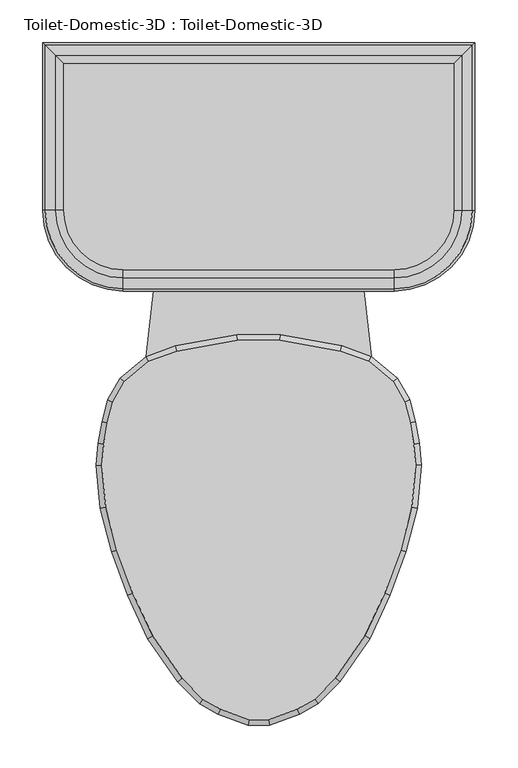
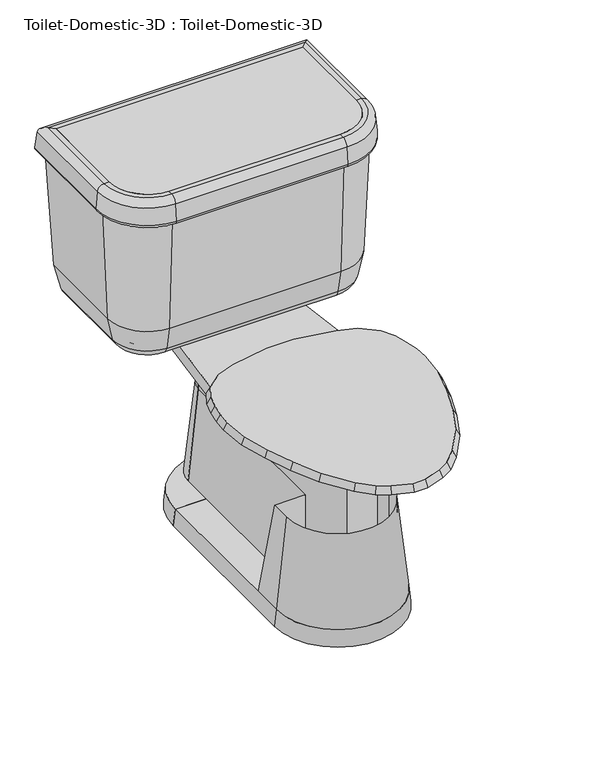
"""IFC4 building model written with IfcOpenShell, lengths in millimetres: flow terminal geometry, Toilet-Domestic-3D : Toilet-Domestic-3D."""

from ifc_helpers import new_model, si_unit, point, frame, frame_2d, origin, place, context, project, spatial, polyline, circle_curve, ellipse_curve, trimmed, segment, composite_curve, outline, extrude, faceted_brep, source, transform, mapped, element, save
from ifc_brep_helpers import plane_surface, cylinder_surface, revolved_surface, advanced_brep


def toilet_domestic_3d_toilet_domestic_3d_3687f172(model_context):
    return source(origin(), model_context, "Body", "SolidModel", [
        advanced_brep(
        [(-117.7636364, 285.75, 0.0), (-38.1, 285.75, 0.0), (-38.1, 285.75, 31.75), (-114.3, 285.75, 31.75), (117.7636364, 285.75, 0.0), (114.3, 285.75, 31.75), (38.1, 285.75, 31.75), (38.1, 285.75, 0.0)],
        [
            (0, 1),
            (1, 2),
            (2, 3),
            (3, 0),
            (4, 5),
            (5, 6),
            (6, 7),
            (7, 4),
            (7, 1, circle_curve(frame((0.0, 285.75, 0.0), z_axis=(0.0, 0.0, 1.0), x_axis=(-1.0, 0.0, 0.0)), 38.1)),
            (0, 4, circle_curve(frame((0.0, 285.75, 0.0), z_axis=(0.0, 0.0, -1.0), x_axis=(-1.0, 0.0, 0.0)), 117.7636364)),
            (6, 2, circle_curve(frame((0.0, 285.75, 31.75), z_axis=(0.0, 0.0, 1.0), x_axis=(-1.0, 0.0, 0.0)), 38.1)),
            (5, 3, circle_curve(frame((0.0, 285.75, 31.75), z_axis=(0.0, 0.0, 1.0), x_axis=(-1.0, 0.0, 0.0)), 114.3)),
        ],
        [
            plane_surface(frame((0.0, 285.75, -304.8), z_axis=(0.0, -1.0, 0.0), x_axis=(-1.0, 0.0, 0.0))),
            plane_surface(frame((0.0, 285.75, -304.8), z_axis=(0.0, -1.0, 0.0), x_axis=(1.0, 0.0, 0.0))),
            plane_surface(frame((0.0, 285.75, 0.0), z_axis=(0.0, 0.0, -1.0), x_axis=(-1.0, 0.0, 0.0))),
            revolved_surface(polyline([(-38.1, 285.75, 0.0), (-38.1, 285.75, 31.75)]), (0.0, 285.75, -304.8), (0.0, 0.0, -1.0)),
            plane_surface(frame((0.0, 285.75, 31.75), z_axis=(0.0, 0.0, 1.0), x_axis=(-1.0, 0.0, 0.0))),
            revolved_surface(polyline([(-114.3, 285.75, 31.75), (-117.7636364, 285.75, 0.0)]), (0.0, 285.75, -304.8), (0.0, 0.0, -1.0)),
        ],
        [
            (0, [[1, 2, 3, 4]]),
            (1, [[5, 6, 7, 8]]),
            (2, [[9, -1, 10, -8]]),
            (3, [[11, -2, -9, -7]]),
            (4, [[12, -3, -11, -6]]),
            (5, [[-10, -4, -12, -5]]),
        ],
    ),
        advanced_brep(
        [(-38.1, 342.9, 206.375), (-57.15, 342.9, 31.75), (-38.1, 342.9, 31.75), (38.1, 342.9, 206.375), (38.1, 342.9, 31.75), (57.15, 342.9, 31.75)],
        [
            (0, 1),
            (1, 2),
            (2, 0),
            (3, 4),
            (4, 5),
            (5, 3),
            (5, 1, circle_curve(frame((0.0, 342.9, 31.75), z_axis=(0.0, 0.0, 1.0), x_axis=(-1.0, 0.0, 0.0)), 57.15)),
            (0, 3, circle_curve(frame((0.0, 342.9, 206.375), z_axis=(0.0, 0.0, -1.0), x_axis=(-1.0, 0.0, 0.0)), 38.1)),
            (4, 2, circle_curve(frame((0.0, 342.9, 31.75), z_axis=(0.0, 0.0, 1.0), x_axis=(-1.0, 0.0, 0.0)), 38.1)),
        ],
        [
            plane_surface(frame((0.0, 342.9, 31.75), z_axis=(0.0, -1.0, 0.0), x_axis=(-1.0, 0.0, 0.0))),
            plane_surface(frame((0.0, 342.9, 31.75), z_axis=(0.0, -1.0, 0.0), x_axis=(1.0, 0.0, 0.0))),
            revolved_surface(polyline([(-38.1, 342.9, 206.375), (-57.15, 342.9, 31.75)]), (0.0, 342.9, 31.75), (0.0, 0.0, -1.0)),
            plane_surface(frame((0.0, 342.9, 31.75), z_axis=(0.0, 0.0, -1.0), x_axis=(-1.0, 0.0, 0.0))),
            revolved_surface(polyline([(-38.1, 342.9, 31.75), (-38.1, 342.9, 206.375)]), (0.0, 342.9, 31.75), (0.0, 0.0, -1.0)),
        ],
        [
            (0, [[1, 2, 3]]),
            (1, [[4, 5, 6]]),
            (2, [[7, -1, 8, -6]]),
            (3, [[9, -2, -7, -5]]),
            (4, [[-8, -3, -9, -4]]),
        ],
    ),
        faceted_brep([(-157.6293435, 97.472128, 400.05), (-171.060664, 73.773864, 400.05), (-177.5851102, 49.4242991, 400.05), (-181.9845715, 24.4737144, 400.05), (-184.125744, 0.0, 400.05), (-179.7950716, -49.4998127, 400.05), (-166.347, -99.688699, 400.05), (-148.0469602, -149.9676451, 400.05), (-124.7045808, -200.0255393, 400.05), (-90.0971582, -249.9125941, 400.05), (-65.691017, -274.3187354, 400.05), (-44.8990862, -286.3229622, 400.05), (-11.5803237, -298.45, 400.05), (11.5803237, -298.45, 400.05), (44.8990862, -286.3229622, 400.05), (65.691017, -274.3187354, 400.05), (90.0971582, -249.9125941, 400.05), (124.7045808, -200.0255393, 400.05), (148.0469602, -149.9676451, 400.05), (166.347, -99.688699, 400.05), (179.7950716, -49.4998127, 400.05), (184.125744, 0.0, 400.05), (181.9845715, 24.4737144, 400.05), (177.5851102, 49.4242991, 400.05), (171.060664, 73.773864, 400.05), (157.6293435, 97.472128, 400.05), (129.0942628, 121.4159037, 400.05), (95.7755003, 133.5429415, 400.05), (24.844447, 146.05, 400.05), (-24.844447, 146.05, 400.05), (-95.7755003, 133.5429415, 400.05), (-129.0942628, 121.4159037, 400.05), (-162.5887836, 101.6, 387.2181453), (-132.3182423, 127.0, 387.2181453), (-97.4252791, 139.7, 387.2181453), (-25.4, 152.4, 387.2181453), (25.4, 152.4, 387.2181453), (97.4252791, 139.7, 387.2181453), (132.3182423, 127.0, 387.2181453), (162.5887836, 101.6, 387.2181453), (176.9845865, 76.2, 387.2181453), (183.790496, 50.8, 387.2181453), (188.2862441, 25.3033453, 387.2181453), (190.5, 0.0, 387.2181453), (186.0724883, -50.6066907, 387.2181453), (172.4088722, -101.6, 387.2181453), (153.9191843, -152.4, 387.2181453), (130.2307553, -203.2, 387.2181453), (94.9900085, -254.0, 387.2181453), (69.5900085, -279.4, 387.2181453), (47.5929632, -292.1, 387.2181453), (12.7, -304.8, 387.2181453), (-12.7, -304.8, 387.2181453), (-47.5929632, -292.1, 387.2181453), (-69.5900085, -279.4, 387.2181453), (-94.9900085, -254.0, 387.2181453), (-130.2307553, -203.2, 387.2181453), (-153.9191843, -152.4, 387.2181453), (-172.4088722, -101.6, 387.2181453), (-186.0724883, -50.6066907, 387.2181453), (-190.5, 0.0, 387.2181453), (-188.2862441, 25.3033453, 387.2181453), (-183.790496, 50.8, 387.2181453), (-176.9845865, 76.2, 387.2181453)], [[[0, 1, 2, 3, 4, 5, 6, 7, 8, 9, 10, 11, 12, 13, 14, 15, 16, 17, 18, 19, 20, 21, 22, 23, 24, 25, 26, 27, 28, 29, 30, 31]], [[32, 33, 34, 35, 36, 37, 38, 39, 40, 41, 42, 43, 44, 45, 46, 47, 48, 49, 50, 51, 52, 53, 54, 55, 56, 57, 58, 59, 60, 61, 62, 63]], [[32, 63, 1, 0]], [[63, 62, 2, 1]], [[62, 61, 3, 2]], [[61, 60, 4, 3]], [[60, 59, 5, 4]], [[59, 58, 6, 5]], [[58, 57, 7, 6]], [[57, 56, 8, 7]], [[56, 55, 9, 8]], [[55, 54, 10, 9]], [[54, 53, 11, 10]], [[53, 52, 12, 11]], [[52, 51, 13, 12]], [[51, 50, 14, 13]], [[50, 49, 15, 14]], [[49, 48, 16, 15]], [[48, 47, 17, 16]], [[47, 46, 18, 17]], [[46, 45, 19, 18]], [[45, 44, 20, 19]], [[44, 43, 21, 20]], [[43, 42, 22, 21]], [[42, 41, 23, 22]], [[41, 40, 24, 23]], [[40, 39, 25, 24]], [[39, 38, 26, 25]], [[38, 37, 27, 26]], [[37, 36, 28, 27]], [[36, 35, 29, 28]], [[35, 34, 30, 29]], [[34, 33, 31, 30]], [[33, 32, 0, 31]]]),
        extrude(outline(composite_curve([segment(polyline([(228.5868869, 469.8868869), (228.5868869, 298.45)]), True, "CONTINUOUS"), segment(trimmed(circle_curve(frame_2d((158.75, 298.45)), 69.8368869), [point((228.5868869, 298.45))], [point((158.75, 228.6131131))], False, "CARTESIAN"), True, "CONTINUOUS"), segment(polyline([(158.75, 228.6131131), (-158.75, 228.6131131)]), True, "CONTINUOUS"), segment(trimmed(circle_curve(frame_2d((-158.75, 298.45)), 69.8368869), [point((-158.75, 228.6131131))], [point((-228.5868869, 298.45))], False, "CARTESIAN"), True, "CONTINUOUS"), segment(polyline([(-228.5868869, 298.45), (-228.5868869, 469.8868869), (228.5868869, 469.8868869)]), True, "CONTINUOUS")], self_intersect=False)), frame((0.0, 0.0, 654.05), z_axis=(0.0, 0.0, 1.0), x_axis=(1.0, 0.0, 0.0)), (0.0, 0.0, 1.0), 50.8),
        extrude(outline(composite_curve([segment(trimmed(circle_curve(frame_2d((0.0, 342.9)), 38.1), [point((-38.1, 342.9))], [point((38.1, 342.9))], False, "CARTESIAN"), True, "CONTINUOUS"), segment(polyline([(38.1, 342.9), (-38.1, 342.9)]), True, "CONTINUOUS")], self_intersect=False)), frame((0.0, 0.0, 206.375), z_axis=(0.0, 0.0, 1.0), x_axis=(1.0, 0.0, 0.0)), (0.0, 0.0, 1.0), 130.175),
        advanced_brep(
        [(177.8, 419.1, 387.2181453), (177.8, 419.1, 374.65), (177.8, 298.45, 374.65), (177.8, 298.45, 387.2181453), (192.8020829, 434.1020829, 387.2181453), (192.8020829, 298.45, 387.2181453), (211.4650931, 452.7650931, 402.4478636), (211.4650931, 298.45, 402.4478636), (218.7732506, 460.0732506, 438.15), (218.7732506, 298.45, 438.15), (228.5868869, 469.8868869, 654.05), (228.5868869, 298.45, 654.05), (228.5868869, 469.8868869, 704.85), (228.5868869, 298.45, 704.85), (237.91817, 479.21817, 704.85), (237.91817, 298.45, 704.85), (250.5698426, 491.8698426, 693.2568779), (250.5698426, 298.45, 693.2568779), (253.3960274, 494.6960274, 660.953439), (253.3960274, 298.45, 660.953439), (247.070191, 488.370191, 654.05), (247.070191, 298.45, 654.05), (241.3, 482.6, 654.05), (241.3, 298.45, 654.05), (231.4863636, 472.7863636, 438.15), (231.4863636, 298.45, 438.15), (222.3416824, 463.6416824, 393.4759963), (222.3416824, 298.45, 393.4759963), (197.8071664, 439.1071664, 374.65), (197.8071664, 298.45, 374.65), (158.75, 279.4, 387.2181453), (158.75, 279.4, 374.65), (158.75, 264.3979171, 387.2181453), (158.75, 245.7349069, 402.4478636), (158.75, 238.4267494, 438.15), (158.75, 228.6131131, 654.05), (158.75, 228.6131131, 704.85), (158.75, 219.28183, 704.85), (158.75, 206.6301574, 693.2568779), (158.75, 203.8039726, 660.953439), (158.75, 210.129809, 654.05), (158.75, 215.9, 654.05), (158.75, 225.7136364, 438.15), (158.75, 234.8583176, 393.4759963), (158.75, 259.3928336, 374.65), (-158.75, 279.4, 374.65), (-158.75, 279.4, 387.2181453), (-158.75, 264.3979171, 387.2181453), (-158.75, 245.7349069, 402.4478636), (-158.75, 238.4267494, 438.15), (-158.75, 228.6131131, 654.05), (-158.75, 228.6131131, 704.85), (-158.75, 219.28183, 704.85), (-158.75, 206.6301574, 693.2568779), (-158.75, 203.8039726, 660.953439), (-158.75, 210.129809, 654.05), (-158.75, 215.9, 654.05), (-158.75, 225.7136364, 438.15), (-158.75, 234.8583176, 393.4759963), (-158.75, 259.3928336, 374.65), (-177.8, 298.45, 387.2181453), (-177.8, 298.45, 374.65), (-192.8020829, 298.45, 387.2181453), (-211.4650931, 298.45, 402.4478636), (-218.7732506, 298.45, 438.15), (-228.5868869, 298.45, 654.05), (-228.5868869, 298.45, 704.85), (-237.91817, 298.45, 704.85), (-250.5698426, 298.45, 693.2568779), (-253.3960274, 298.45, 660.953439), (-247.070191, 298.45, 654.05), (-241.3, 298.45, 654.05), (-231.4863636, 298.45, 438.15), (-222.3416824, 298.45, 393.4759963), (-197.8071664, 298.45, 374.65), (-177.8, 419.1, 374.65), (-177.8, 419.1, 387.2181453), (-192.8020829, 434.1020829, 387.2181453), (-211.4650931, 452.7650931, 402.4478636), (-218.7732506, 460.0732506, 438.15), (-228.5868869, 469.8868869, 654.05), (-228.5868869, 469.8868869, 704.85), (-237.91817, 479.21817, 704.85), (-250.5698426, 491.8698426, 693.2568779), (-253.3960274, 494.6960274, 660.953439), (-247.070191, 488.370191, 654.05), (-241.3, 482.6, 654.05), (-231.4863636, 472.7863636, 438.15), (-222.3416824, 463.6416824, 393.4759963), (-197.8071664, 439.1071664, 374.65)],
        [
            (0, 1),
            (1, 2),
            (2, 3),
            (3, 0),
            (4, 0),
            (3, 5),
            (5, 4),
            (6, 4, ellipse_curve(frame((192.8020829, 434.1020829, 406.2681453), z_axis=(-0.7071067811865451, 0.7071067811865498, 0.0), x_axis=(-0.7071067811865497, -0.7071067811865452, 0.0)), 26.9407684, 19.05)),
            (5, 7, circle_curve(frame((192.8020829, 298.45, 406.2681453), z_axis=(0.0, -1.0, 0.0), x_axis=(1.0, 0.0, 0.0)), 19.05)),
            (7, 6),
            (8, 6),
            (7, 9),
            (9, 8),
            (10, 8),
            (9, 11),
            (11, 10),
            (12, 10),
            (11, 13),
            (13, 12),
            (14, 12),
            (13, 15),
            (15, 14),
            (16, 14, ellipse_curve(frame((237.91817, 479.21817, 692.15), z_axis=(0.7071067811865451, -0.7071067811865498, 0.0), x_axis=(0.7071067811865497, 0.7071067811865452, 0.0)), 17.9605122, 12.7)),
            (15, 17, circle_curve(frame((237.91817, 298.45, 692.15), z_axis=(0.0, 1.0, 0.0), x_axis=(1.0, 0.0, 0.0)), 12.7)),
            (17, 16),
            (18, 16),
            (17, 19),
            (19, 18),
            (20, 18, ellipse_curve(frame((247.070191, 488.370191, 660.4), z_axis=(0.7071067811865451, -0.7071067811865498, 0.0), x_axis=(0.7071067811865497, 0.7071067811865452, 0.0)), 8.9802561, 6.35)),
            (19, 21, circle_curve(frame((247.070191, 298.45, 660.4), z_axis=(0.0, 1.0, 0.0), x_axis=(1.0, 0.0, 0.0)), 6.35)),
            (21, 20),
            (22, 20),
            (21, 23),
            (23, 22),
            (24, 22),
            (23, 25),
            (25, 24),
            (26, 24),
            (25, 27),
            (27, 26),
            (28, 26, ellipse_curve(frame((197.8071664, 439.1071664, 400.05), z_axis=(0.7071067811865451, -0.7071067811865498, 0.0), x_axis=(0.7071067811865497, 0.7071067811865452, 0.0)), 35.9210245, 25.4)),
            (27, 29, circle_curve(frame((197.8071664, 298.45, 400.05), z_axis=(0.0, 1.0, 0.0), x_axis=(1.0, 0.0, 0.0)), 25.4)),
            (29, 28),
            (1, 28),
            (29, 2),
            (30, 3, circle_curve(frame((158.75, 298.45, 387.2181453), z_axis=(0.0, 0.0, 1.0), x_axis=(1.0, 0.0, 0.0)), 19.05)),
            (2, 31, circle_curve(frame((158.75, 298.45, 374.65), z_axis=(0.0, 0.0, -1.0), x_axis=(1.0, 0.0, 0.0)), 19.05)),
            (31, 30),
            (32, 5, circle_curve(frame((158.75, 298.45, 387.2181453), z_axis=(0.0, 0.0, 1.0), x_axis=(1.0, 0.0, 0.0)), 34.0520829)),
            (30, 32),
            (33, 7, circle_curve(frame((158.75, 298.45, 402.4478636), z_axis=(0.0, 0.0, 1.0), x_axis=(1.0, 0.0, 0.0)), 52.7150931)),
            (32, 33, circle_curve(frame((158.75, 264.3979171, 406.2681453), z_axis=(-1.0, 0.0, 0.0), x_axis=(0.0, -1.0, 0.0)), 19.05)),
            (34, 9, circle_curve(frame((158.75, 298.45, 438.15), z_axis=(0.0, 0.0, 1.0), x_axis=(1.0, 0.0, 0.0)), 60.0232506)),
            (33, 34),
            (35, 11, circle_curve(frame((158.75, 298.45, 654.05), z_axis=(0.0, 0.0, 1.0), x_axis=(1.0, 0.0, 0.0)), 69.8368869)),
            (34, 35),
            (36, 13, circle_curve(frame((158.75, 298.45, 704.85), z_axis=(0.0, 0.0, 1.0), x_axis=(1.0, 0.0, 0.0)), 69.8368869)),
            (35, 36),
            (37, 15, circle_curve(frame((158.75, 298.45, 704.85), z_axis=(0.0, 0.0, 1.0), x_axis=(1.0, 0.0, 0.0)), 79.16817)),
            (36, 37),
            (38, 17, circle_curve(frame((158.75, 298.45, 693.2568779), z_axis=(0.0, 0.0, 1.0), x_axis=(1.0, 0.0, 0.0)), 91.8198426)),
            (37, 38, circle_curve(frame((158.75, 219.28183, 692.15), z_axis=(1.0, 0.0, 0.0), x_axis=(0.0, -1.0, 0.0)), 12.7)),
            (39, 19, circle_curve(frame((158.75, 298.45, 660.953439), z_axis=(0.0, 0.0, 1.0), x_axis=(1.0, 0.0, 0.0)), 94.6460274)),
            (38, 39),
            (40, 21, circle_curve(frame((158.75, 298.45, 654.05), z_axis=(0.0, 0.0, 1.0), x_axis=(1.0, 0.0, 0.0)), 88.320191)),
            (39, 40, circle_curve(frame((158.75, 210.129809, 660.4), z_axis=(1.0, 0.0, 0.0), x_axis=(0.0, -1.0, 0.0)), 6.35)),
            (41, 23, circle_curve(frame((158.75, 298.45, 654.05), z_axis=(0.0, 0.0, 1.0), x_axis=(1.0, 0.0, 0.0)), 82.55)),
            (40, 41),
            (42, 25, circle_curve(frame((158.75, 298.45, 438.15), z_axis=(0.0, 0.0, 1.0), x_axis=(1.0, 0.0, 0.0)), 72.7363636)),
            (41, 42),
            (43, 27, circle_curve(frame((158.75, 298.45, 393.4759963), z_axis=(0.0, 0.0, 1.0), x_axis=(1.0, 0.0, 0.0)), 63.5916824)),
            (42, 43),
            (44, 29, circle_curve(frame((158.75, 298.45, 374.65), z_axis=(0.0, 0.0, 1.0), x_axis=(1.0, 0.0, 0.0)), 39.0571664)),
            (43, 44, circle_curve(frame((158.75, 259.3928336, 400.05), z_axis=(1.0, 0.0, 0.0), x_axis=(0.0, -1.0, 0.0)), 25.4)),
            (44, 31),
            (31, 45),
            (45, 46),
            (46, 30),
            (46, 47),
            (47, 32),
            (47, 48, circle_curve(frame((-158.75, 264.3979171, 406.2681453), z_axis=(-1.0, 0.0, 0.0), x_axis=(0.0, -1.0, 0.0)), 19.05)),
            (48, 33),
            (48, 49),
            (49, 34),
            (49, 50),
            (50, 35),
            (50, 51),
            (51, 36),
            (51, 52),
            (52, 37),
            (52, 53, circle_curve(frame((-158.75, 219.28183, 692.15), z_axis=(1.0, 0.0, 0.0), x_axis=(0.0, -1.0, 0.0)), 12.7)),
            (53, 38),
            (53, 54),
            (54, 39),
            (54, 55, circle_curve(frame((-158.75, 210.129809, 660.4), z_axis=(1.0, 0.0, 0.0), x_axis=(0.0, -1.0, 0.0)), 6.35)),
            (55, 40),
            (55, 56),
            (56, 41),
            (56, 57),
            (57, 42),
            (57, 58),
            (58, 43),
            (58, 59, circle_curve(frame((-158.75, 259.3928336, 400.05), z_axis=(1.0, 0.0, 0.0), x_axis=(0.0, -1.0, 0.0)), 25.4)),
            (59, 44),
            (59, 45),
            (60, 46, circle_curve(frame((-158.75, 298.45, 387.2181453), z_axis=(0.0, 0.0, 1.0), x_axis=(0.0, -1.0, 0.0)), 19.05)),
            (45, 61, circle_curve(frame((-158.75, 298.45, 374.65), z_axis=(0.0, 0.0, -1.0), x_axis=(0.0, -1.0, 0.0)), 19.05)),
            (61, 60),
            (62, 47, circle_curve(frame((-158.75, 298.45, 387.2181453), z_axis=(0.0, 0.0, 1.0), x_axis=(0.0, -1.0, 0.0)), 34.0520829)),
            (60, 62),
            (63, 48, circle_curve(frame((-158.75, 298.45, 402.4478636), z_axis=(0.0, 0.0, 1.0), x_axis=(0.0, -1.0, 0.0)), 52.7150931)),
            (62, 63, circle_curve(frame((-192.8020829, 298.45, 406.2681453), z_axis=(0.0, 1.0, 0.0), x_axis=(-1.0, 0.0, 0.0)), 19.05)),
            (64, 49, circle_curve(frame((-158.75, 298.45, 438.15), z_axis=(0.0, 0.0, 1.0), x_axis=(0.0, -1.0, 0.0)), 60.0232506)),
            (63, 64),
            (65, 50, circle_curve(frame((-158.75, 298.45, 654.05), z_axis=(0.0, 0.0, 1.0), x_axis=(0.0, -1.0, 0.0)), 69.8368869)),
            (64, 65),
            (66, 51, circle_curve(frame((-158.75, 298.45, 704.85), z_axis=(0.0, 0.0, 1.0), x_axis=(0.0, -1.0, 0.0)), 69.8368869)),
            (65, 66),
            (67, 52, circle_curve(frame((-158.75, 298.45, 704.85), z_axis=(0.0, 0.0, 1.0), x_axis=(0.0, -1.0, 0.0)), 79.16817)),
            (66, 67),
            (68, 53, circle_curve(frame((-158.75, 298.45, 693.2568779), z_axis=(0.0, 0.0, 1.0), x_axis=(0.0, -1.0, 0.0)), 91.8198426)),
            (67, 68, circle_curve(frame((-237.91817, 298.45, 692.15), z_axis=(0.0, -1.0, 0.0), x_axis=(-1.0, 0.0, 0.0)), 12.7)),
            (69, 54, circle_curve(frame((-158.75, 298.45, 660.953439), z_axis=(0.0, 0.0, 1.0), x_axis=(0.0, -1.0, 0.0)), 94.6460274)),
            (68, 69),
            (70, 55, circle_curve(frame((-158.75, 298.45, 654.05), z_axis=(0.0, 0.0, 1.0), x_axis=(0.0, -1.0, 0.0)), 88.320191)),
            (69, 70, circle_curve(frame((-247.070191, 298.45, 660.4), z_axis=(0.0, -1.0, 0.0), x_axis=(-1.0, 0.0, 0.0)), 6.35)),
            (71, 56, circle_curve(frame((-158.75, 298.45, 654.05), z_axis=(0.0, 0.0, 1.0), x_axis=(0.0, -1.0, 0.0)), 82.55)),
            (70, 71),
            (72, 57, circle_curve(frame((-158.75, 298.45, 438.15), z_axis=(0.0, 0.0, 1.0), x_axis=(0.0, -1.0, 0.0)), 72.7363636)),
            (71, 72),
            (73, 58, circle_curve(frame((-158.75, 298.45, 393.4759963), z_axis=(0.0, 0.0, 1.0), x_axis=(0.0, -1.0, 0.0)), 63.5916824)),
            (72, 73),
            (74, 59, circle_curve(frame((-158.75, 298.45, 374.65), z_axis=(0.0, 0.0, 1.0), x_axis=(0.0, -1.0, 0.0)), 39.0571664)),
            (73, 74, circle_curve(frame((-197.8071664, 298.45, 400.05), z_axis=(0.0, -1.0, 0.0), x_axis=(-1.0, 0.0, 0.0)), 25.4)),
            (74, 61),
            (61, 75),
            (75, 76),
            (76, 60),
            (76, 77),
            (77, 62),
            (77, 78, ellipse_curve(frame((-192.8020829, 434.1020829, 406.2681453), z_axis=(0.7071067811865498, 0.7071067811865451, 0.0), x_axis=(-0.7071067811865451, 0.70710678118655, 0.0)), 26.9407684, 19.05)),
            (78, 63),
            (78, 79),
            (79, 64),
            (79, 80),
            (80, 65),
            (80, 81),
            (81, 66),
            (81, 82),
            (82, 67),
            (82, 83, ellipse_curve(frame((-237.91817, 479.21817, 692.15), z_axis=(-0.7071067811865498, -0.7071067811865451, 0.0), x_axis=(0.7071067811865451, -0.70710678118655, 0.0)), 17.9605122, 12.7)),
            (83, 68),
            (83, 84),
            (84, 69),
            (84, 85, ellipse_curve(frame((-247.070191, 488.370191, 660.4), z_axis=(-0.7071067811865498, -0.7071067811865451, 0.0), x_axis=(0.7071067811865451, -0.70710678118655, 0.0)), 8.9802561, 6.35)),
            (85, 70),
            (85, 86),
            (86, 71),
            (86, 87),
            (87, 72),
            (87, 88),
            (88, 73),
            (88, 89, ellipse_curve(frame((-197.8071664, 439.1071664, 400.05), z_axis=(-0.7071067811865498, -0.7071067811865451, 0.0), x_axis=(0.7071067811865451, -0.70710678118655, 0.0)), 35.9210245, 25.4)),
            (89, 74),
            (89, 75),
            (75, 1),
            (0, 76),
            (4, 77),
            (6, 78),
            (8, 79),
            (10, 80),
            (12, 81),
            (14, 82),
            (16, 83),
            (18, 84),
            (20, 85),
            (22, 86),
            (24, 87),
            (26, 88),
            (28, 89),
        ],
        [
            plane_surface(frame((177.8, 419.1, 374.65), z_axis=(-1.0, 0.0, 0.0), x_axis=(0.0, -1.0, 0.0))),
            plane_surface(frame((177.8, 419.1, 387.2181453), z_axis=(0.0, 0.0, 1.0), x_axis=(0.0, -1.0, 0.0))),
            revolved_surface(polyline([(211.8520829, 298.45, 406.2681453), (211.8520829, 453.1520829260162, 406.2681453)]), (192.8020829, 419.1, 406.2681453), (0.0, -1.0, 0.0)),
            plane_surface(frame((211.4650931, 452.7650931, 402.4478636), z_axis=(-0.9796855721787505, 0.0, 0.2005397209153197), x_axis=(0.0, -1.0, 0.0))),
            plane_surface(frame((218.7732506, 460.0732506, 438.15), z_axis=(-0.9989685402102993, 0.0, 0.04540766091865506), x_axis=(0.0, -1.0, 0.0))),
            plane_surface(frame((228.5868869, 469.8868869, 654.05), z_axis=(-1.0, 0.0, 0.0), x_axis=(0.0, -1.0, 0.0))),
            plane_surface(frame((228.5868869, 469.8868869, 704.85), z_axis=(0.0, 0.0, 1.0), x_axis=(0.0, -1.0, 0.0))),
            cylinder_surface(frame((237.91817, 419.1, 692.15), z_axis=(0.0, 1.0, 0.0), x_axis=(1.0, 0.0, 0.0)), 12.7),
            plane_surface(frame((250.5698426, 491.8698426, 693.2568779), z_axis=(0.9961946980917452, 0.0, 0.08715574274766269), x_axis=(0.0, -1.0, 0.0))),
            cylinder_surface(frame((247.070191, 419.1, 660.4), z_axis=(0.0, 1.0, 0.0), x_axis=(1.0, 0.0, 0.0)), 6.35),
            plane_surface(frame((247.070191, 488.370191, 654.05), z_axis=(0.0, 0.0, -1.0), x_axis=(0.0, -1.0, 0.0))),
            plane_surface(frame((241.3, 482.6, 654.05), z_axis=(0.9989685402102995, 0.0, -0.04540766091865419), x_axis=(0.0, -1.0, 0.0))),
            plane_surface(frame((231.4863636, 472.7863636, 438.15), z_axis=(0.9796855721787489, 0.0, -0.20053972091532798), x_axis=(0.0, -1.0, 0.0))),
            cylinder_surface(frame((197.8071664, 419.1, 400.05), z_axis=(0.0, 1.0, 0.0), x_axis=(1.0, 0.0, 0.0)), 25.4),
            plane_surface(frame((197.8071664, 439.1071664, 374.65), z_axis=(0.0, 0.0, -1.0), x_axis=(0.0, -1.0, 0.0))),
            revolved_surface(polyline([(177.8, 298.45, 374.65), (177.8, 298.45, 387.2181453)]), (158.75, 298.45, 0.0), (0.0, 0.0, -1.0)),
            plane_surface(frame((158.75, 298.45, 387.2181453), z_axis=(0.0, 0.0, 1.0), x_axis=(1.0, 0.0, 0.0))),
            revolved_surface(trimmed(ellipse_curve(frame((192.8020829, 298.45, 406.2681453), z_axis=(0.0, -1.0, 0.0), x_axis=(1.0, 0.0, 0.0)), 19.05, 19.05), [point((192.8020829, 298.45, 387.2181453))], [point((211.4650931, 298.45, 402.4478636))], True, "CARTESIAN"), (158.75, 298.45, 0.0), (0.0, 0.0, -1.0)),
            revolved_surface(polyline([(211.4650931, 298.45, 402.4478636), (218.7732506, 298.45, 438.15)]), (158.75, 298.45, 0.0), (0.0, 0.0, -1.0)),
            revolved_surface(polyline([(218.7732506, 298.45, 438.15), (228.5868869, 298.45, 654.05)]), (158.75, 298.45, 0.0), (0.0, 0.0, -1.0)),
            revolved_surface(polyline([(228.5868869, 298.45, 654.05), (228.5868869, 298.45, 704.85)]), (158.75, 298.45, 0.0), (0.0, 0.0, -1.0)),
            plane_surface(frame((158.75, 298.45, 704.85), z_axis=(0.0, 0.0, 1.0), x_axis=(1.0, 0.0, 0.0))),
            revolved_surface(trimmed(ellipse_curve(frame((237.91817, 298.45, 692.15), z_axis=(0.0, 1.0, 0.0), x_axis=(1.0, 0.0, 0.0)), 12.7, 12.7), [point((237.91817, 298.45, 704.85))], [point((250.5698426, 298.45, 693.2568779))], True, "CARTESIAN"), (158.75, 298.45, 0.0), (0.0, 0.0, -1.0)),
            revolved_surface(polyline([(250.5698426, 298.45, 693.2568779), (253.3960274, 298.45, 660.953439)]), (158.75, 298.45, 0.0), (0.0, 0.0, -1.0)),
            revolved_surface(trimmed(ellipse_curve(frame((247.070191, 298.45, 660.4), z_axis=(0.0, 1.0, 0.0), x_axis=(1.0, 0.0, 0.0)), 6.35, 6.35), [point((253.3960274, 298.45, 660.953439))], [point((247.070191, 298.45, 654.05))], True, "CARTESIAN"), (158.75, 298.45, 0.0), (0.0, 0.0, -1.0)),
            plane_surface(frame((158.75, 298.45, 654.05), z_axis=(0.0, 0.0, -1.0), x_axis=(1.0, 0.0, 0.0))),
            revolved_surface(polyline([(241.3, 298.45, 654.05), (231.4863636, 298.45, 438.15)]), (158.75, 298.45, 0.0), (0.0, 0.0, -1.0)),
            revolved_surface(polyline([(231.4863636, 298.45, 438.15), (222.3416824, 298.45, 393.4759963)]), (158.75, 298.45, 0.0), (0.0, 0.0, -1.0)),
            revolved_surface(trimmed(ellipse_curve(frame((197.8071664, 298.45, 400.05), z_axis=(0.0, 1.0, 0.0), x_axis=(1.0, 0.0, 0.0)), 25.4, 25.4), [point((222.3416824, 298.45, 393.4759963))], [point((197.8071664, 298.45, 374.65))], True, "CARTESIAN"), (158.75, 298.45, 0.0), (0.0, 0.0, -1.0)),
            plane_surface(frame((158.75, 298.45, 374.65), z_axis=(0.0, 0.0, -1.0), x_axis=(1.0, 0.0, 0.0))),
            plane_surface(frame((158.75, 279.4, 374.65), z_axis=(0.0, 1.0, 0.0), x_axis=(-1.0, 0.0, 0.0))),
            plane_surface(frame((158.75, 279.4, 387.2181453), z_axis=(0.0, 0.0, 1.0), x_axis=(-1.0, 0.0, 0.0))),
            revolved_surface(polyline([(-158.75, 245.34791709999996, 406.2681453), (158.75, 245.34791709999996, 406.2681453)]), (158.75, 264.3979171, 406.2681453), (-1.0, 0.0, 0.0)),
            plane_surface(frame((158.75, 245.7349069, 402.4478636), z_axis=(0.0, 0.9796855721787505, 0.2005397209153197), x_axis=(-1.0, 0.0, 0.0))),
            plane_surface(frame((158.75, 238.4267494, 438.15), z_axis=(0.0, 0.9989685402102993, 0.04540766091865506), x_axis=(-1.0, 0.0, 0.0))),
            plane_surface(frame((158.75, 228.6131131, 654.05), z_axis=(0.0, 1.0, 0.0), x_axis=(-1.0, 0.0, 0.0))),
            plane_surface(frame((158.75, 228.6131131, 704.85), z_axis=(0.0, 0.0, 1.0), x_axis=(-1.0, 0.0, 0.0))),
            cylinder_surface(frame((158.75, 219.28183, 692.15), z_axis=(1.0, 0.0, 0.0), x_axis=(0.0, -1.0, 0.0)), 12.7),
            plane_surface(frame((158.75, 206.6301574, 693.2568779), z_axis=(0.0, -0.9961946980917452, 0.08715574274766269), x_axis=(-1.0, 0.0, 0.0))),
            cylinder_surface(frame((158.75, 210.129809, 660.4), z_axis=(1.0, 0.0, 0.0), x_axis=(0.0, -1.0, 0.0)), 6.35),
            plane_surface(frame((158.75, 210.129809, 654.05), z_axis=(0.0, 0.0, -1.0), x_axis=(-1.0, 0.0, 0.0))),
            plane_surface(frame((158.75, 215.9, 654.05), z_axis=(0.0, -0.9989685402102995, -0.04540766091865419), x_axis=(-1.0, 0.0, 0.0))),
            plane_surface(frame((158.75, 225.7136364, 438.15), z_axis=(0.0, -0.9796855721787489, -0.20053972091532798), x_axis=(-1.0, 0.0, 0.0))),
            cylinder_surface(frame((158.75, 259.3928336, 400.05), z_axis=(1.0, 0.0, 0.0), x_axis=(0.0, -1.0, 0.0)), 25.4),
            plane_surface(frame((158.75, 259.3928336, 374.65), z_axis=(0.0, 0.0, -1.0), x_axis=(-1.0, 0.0, 0.0))),
            revolved_surface(polyline([(-158.75, 279.4, 374.65), (-158.75, 279.4, 387.2181453)]), (-158.75, 298.45, 0.0), (0.0, 0.0, -1.0)),
            plane_surface(frame((-158.75, 298.45, 387.2181453), z_axis=(0.0, 0.0, 1.0), x_axis=(0.0, -1.0, 0.0))),
            revolved_surface(trimmed(ellipse_curve(frame((-158.75, 264.3979171, 406.2681453), z_axis=(-1.0, 0.0, 0.0), x_axis=(0.0, -1.0, 0.0)), 19.05, 19.05), [point((-158.75, 264.3979171, 387.2181453))], [point((-158.75, 245.7349069, 402.4478636))], True, "CARTESIAN"), (-158.75, 298.45, 0.0), (0.0, 0.0, -1.0)),
            revolved_surface(polyline([(-158.75, 245.7349069, 402.4478636), (-158.75, 238.4267494, 438.15)]), (-158.75, 298.45, 0.0), (0.0, 0.0, -1.0)),
            revolved_surface(polyline([(-158.75, 238.4267494, 438.15), (-158.75, 228.6131131, 654.05)]), (-158.75, 298.45, 0.0), (0.0, 0.0, -1.0)),
            revolved_surface(polyline([(-158.75, 228.6131131, 654.05), (-158.75, 228.6131131, 704.85)]), (-158.75, 298.45, 0.0), (0.0, 0.0, -1.0)),
            plane_surface(frame((-158.75, 298.45, 704.85), z_axis=(0.0, 0.0, 1.0), x_axis=(0.0, -1.0, 0.0))),
            revolved_surface(trimmed(ellipse_curve(frame((-158.75, 219.28183, 692.15), z_axis=(1.0, 0.0, 0.0), x_axis=(0.0, -1.0, 0.0)), 12.7, 12.7), [point((-158.75, 219.28183, 704.85))], [point((-158.75, 206.6301574, 693.2568779))], True, "CARTESIAN"), (-158.75, 298.45, 0.0), (0.0, 0.0, -1.0)),
            revolved_surface(polyline([(-158.75, 206.6301574, 693.2568779), (-158.75, 203.8039726, 660.953439)]), (-158.75, 298.45, 0.0), (0.0, 0.0, -1.0)),
            revolved_surface(trimmed(ellipse_curve(frame((-158.75, 210.129809, 660.4), z_axis=(1.0, 0.0, 0.0), x_axis=(0.0, -1.0, 0.0)), 6.35, 6.35), [point((-158.75, 203.8039726, 660.953439))], [point((-158.75, 210.129809, 654.05))], True, "CARTESIAN"), (-158.75, 298.45, 0.0), (0.0, 0.0, -1.0)),
            plane_surface(frame((-158.75, 298.45, 654.05), z_axis=(0.0, 0.0, -1.0), x_axis=(0.0, -1.0, 0.0))),
            revolved_surface(polyline([(-158.75, 215.9, 654.05), (-158.75, 225.7136364, 438.15)]), (-158.75, 298.45, 0.0), (0.0, 0.0, -1.0)),
            revolved_surface(polyline([(-158.75, 225.7136364, 438.15), (-158.75, 234.8583176, 393.4759963)]), (-158.75, 298.45, 0.0), (0.0, 0.0, -1.0)),
            revolved_surface(trimmed(ellipse_curve(frame((-158.75, 259.3928336, 400.05), z_axis=(1.0, 0.0, 0.0), x_axis=(0.0, -1.0, 0.0)), 25.4, 25.4), [point((-158.75, 234.8583176, 393.4759963))], [point((-158.75, 259.3928336, 374.65))], True, "CARTESIAN"), (-158.75, 298.45, 0.0), (0.0, 0.0, -1.0)),
            plane_surface(frame((-158.75, 298.45, 374.65), z_axis=(0.0, 0.0, -1.0), x_axis=(0.0, -1.0, 0.0))),
            plane_surface(frame((-177.8, 298.45, 374.65), z_axis=(1.0, 0.0, 0.0), x_axis=(0.0, 1.0, 0.0))),
            plane_surface(frame((-177.8, 298.45, 387.2181453), z_axis=(0.0, 0.0, 1.0), x_axis=(0.0, 1.0, 0.0))),
            revolved_surface(polyline([(-211.8520829, 453.15208292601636, 406.2681453), (-211.8520829, 298.45, 406.2681453)]), (-192.8020829, 298.45, 406.2681453), (0.0, 1.0, 0.0)),
            plane_surface(frame((-211.4650931, 298.45, 402.4478636), z_axis=(0.9796855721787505, 0.0, 0.2005397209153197), x_axis=(0.0, 1.0, 0.0))),
            plane_surface(frame((-218.7732506, 298.45, 438.15), z_axis=(0.9989685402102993, 0.0, 0.04540766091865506), x_axis=(0.0, 1.0, 0.0))),
            plane_surface(frame((-228.5868869, 298.45, 654.05), z_axis=(1.0, 0.0, 0.0), x_axis=(0.0, 1.0, 0.0))),
            plane_surface(frame((-228.5868869, 298.45, 704.85), z_axis=(0.0, 0.0, 1.0), x_axis=(0.0, 1.0, 0.0))),
            cylinder_surface(frame((-237.91817, 298.45, 692.15), z_axis=(0.0, -1.0, 0.0), x_axis=(-1.0, 0.0, 0.0)), 12.7),
            plane_surface(frame((-250.5698426, 298.45, 693.2568779), z_axis=(-0.9961946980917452, 0.0, 0.08715574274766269), x_axis=(0.0, 1.0, 0.0))),
            cylinder_surface(frame((-247.070191, 298.45, 660.4), z_axis=(0.0, -1.0, 0.0), x_axis=(-1.0, 0.0, 0.0)), 6.35),
            plane_surface(frame((-247.070191, 298.45, 654.05), z_axis=(0.0, 0.0, -1.0), x_axis=(0.0, 1.0, 0.0))),
            plane_surface(frame((-241.3, 298.45, 654.05), z_axis=(-0.9989685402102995, 0.0, -0.04540766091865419), x_axis=(0.0, 1.0, 0.0))),
            plane_surface(frame((-231.4863636, 298.45, 438.15), z_axis=(-0.9796855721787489, 0.0, -0.20053972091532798), x_axis=(0.0, 1.0, 0.0))),
            cylinder_surface(frame((-197.8071664, 298.45, 400.05), z_axis=(0.0, -1.0, 0.0), x_axis=(-1.0, 0.0, 0.0)), 25.4),
            plane_surface(frame((-197.8071664, 298.45, 374.65), z_axis=(0.0, 0.0, -1.0), x_axis=(0.0, 1.0, 0.0))),
            plane_surface(frame((-177.8, 419.1, 374.65), z_axis=(0.0, -1.0, 0.0), x_axis=(1.0, 0.0, 0.0))),
            plane_surface(frame((-177.8, 419.1, 387.2181453), z_axis=(0.0, 0.0, 1.0), x_axis=(1.0, 0.0, 0.0))),
            revolved_surface(polyline([(211.85208292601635, 453.15208290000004, 406.2681453), (-211.85208292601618, 453.15208290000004, 406.2681453)]), (-177.8, 434.1020829, 406.2681453), (1.0, 0.0, 0.0)),
            plane_surface(frame((-211.4650931, 452.7650931, 402.4478636), z_axis=(0.0, -0.9796855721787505, 0.2005397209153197), x_axis=(1.0, 0.0, 0.0))),
            plane_surface(frame((-218.7732506, 460.0732506, 438.15), z_axis=(0.0, -0.9989685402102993, 0.04540766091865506), x_axis=(1.0, 0.0, 0.0))),
            plane_surface(frame((-228.5868869, 469.8868869, 654.05), z_axis=(0.0, -1.0, 0.0), x_axis=(1.0, 0.0, 0.0))),
            plane_surface(frame((-228.5868869, 469.8868869, 704.85), z_axis=(0.0, 0.0, 1.0), x_axis=(1.0, 0.0, 0.0))),
            cylinder_surface(frame((-177.8, 479.21817, 692.15), z_axis=(-1.0, 0.0, 0.0), x_axis=(0.0, 1.0, 0.0)), 12.7),
            plane_surface(frame((-250.5698426, 491.8698426, 693.2568779), z_axis=(0.0, 0.9961946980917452, 0.08715574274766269), x_axis=(1.0, 0.0, 0.0))),
            cylinder_surface(frame((-177.8, 488.370191, 660.4), z_axis=(-1.0, 0.0, 0.0), x_axis=(0.0, 1.0, 0.0)), 6.35),
            plane_surface(frame((-247.070191, 488.370191, 654.05), z_axis=(0.0, 0.0, -1.0), x_axis=(1.0, 0.0, 0.0))),
            plane_surface(frame((-241.3, 482.6, 654.05), z_axis=(0.0, 0.9989685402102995, -0.04540766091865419), x_axis=(1.0, 0.0, 0.0))),
            plane_surface(frame((-231.4863636, 472.7863636, 438.15), z_axis=(0.0, 0.9796855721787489, -0.20053972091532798), x_axis=(1.0, 0.0, 0.0))),
            cylinder_surface(frame((-177.8, 439.1071664, 400.05), z_axis=(-1.0, 0.0, 0.0), x_axis=(0.0, 1.0, 0.0)), 25.4),
            plane_surface(frame((-197.8071664, 439.1071664, 374.65), z_axis=(0.0, 0.0, -1.0), x_axis=(1.0, 0.0, 0.0))),
        ],
        [
            (0, [[1, 2, 3, 4]]),
            (1, [[5, -4, 6, 7]]),
            (2, [[8, -7, 9, 10]]),
            (3, [[11, -10, 12, 13]]),
            (4, [[14, -13, 15, 16]]),
            (5, [[17, -16, 18, 19]]),
            (6, [[20, -19, 21, 22]]),
            (7, [[23, -22, 24, 25]]),
            (8, [[26, -25, 27, 28]]),
            (9, [[29, -28, 30, 31]]),
            (10, [[32, -31, 33, 34]]),
            (11, [[35, -34, 36, 37]]),
            (12, [[38, -37, 39, 40]]),
            (13, [[41, -40, 42, 43]]),
            (14, [[44, -43, 45, -2]]),
            (15, [[46, -3, 47, 48]]),
            (16, [[49, -6, -46, 50]]),
            (17, [[51, -9, -49, 52]]),
            (18, [[53, -12, -51, 54]]),
            (19, [[55, -15, -53, 56]]),
            (20, [[57, -18, -55, 58]]),
            (21, [[59, -21, -57, 60]]),
            (22, [[61, -24, -59, 62]]),
            (23, [[63, -27, -61, 64]]),
            (24, [[65, -30, -63, 66]]),
            (25, [[67, -33, -65, 68]]),
            (26, [[69, -36, -67, 70]]),
            (27, [[71, -39, -69, 72]]),
            (28, [[73, -42, -71, 74]]),
            (29, [[-47, -45, -73, 75]]),
            (30, [[-48, 76, 77, 78]]),
            (31, [[-50, -78, 79, 80]]),
            (32, [[-52, -80, 81, 82]]),
            (33, [[-54, -82, 83, 84]]),
            (34, [[-56, -84, 85, 86]]),
            (35, [[-58, -86, 87, 88]]),
            (36, [[-60, -88, 89, 90]]),
            (37, [[-62, -90, 91, 92]]),
            (38, [[-64, -92, 93, 94]]),
            (39, [[-66, -94, 95, 96]]),
            (40, [[-68, -96, 97, 98]]),
            (41, [[-70, -98, 99, 100]]),
            (42, [[-72, -100, 101, 102]]),
            (43, [[-74, -102, 103, 104]]),
            (44, [[-75, -104, 105, -76]]),
            (45, [[106, -77, 107, 108]]),
            (46, [[109, -79, -106, 110]]),
            (47, [[111, -81, -109, 112]]),
            (48, [[113, -83, -111, 114]]),
            (49, [[115, -85, -113, 116]]),
            (50, [[117, -87, -115, 118]]),
            (51, [[119, -89, -117, 120]]),
            (52, [[121, -91, -119, 122]]),
            (53, [[123, -93, -121, 124]]),
            (54, [[125, -95, -123, 126]]),
            (55, [[127, -97, -125, 128]]),
            (56, [[129, -99, -127, 130]]),
            (57, [[131, -101, -129, 132]]),
            (58, [[133, -103, -131, 134]]),
            (59, [[-107, -105, -133, 135]]),
            (60, [[-108, 136, 137, 138]]),
            (61, [[-110, -138, 139, 140]]),
            (62, [[-112, -140, 141, 142]]),
            (63, [[-114, -142, 143, 144]]),
            (64, [[-116, -144, 145, 146]]),
            (65, [[-118, -146, 147, 148]]),
            (66, [[-120, -148, 149, 150]]),
            (67, [[-122, -150, 151, 152]]),
            (68, [[-124, -152, 153, 154]]),
            (69, [[-126, -154, 155, 156]]),
            (70, [[-128, -156, 157, 158]]),
            (71, [[-130, -158, 159, 160]]),
            (72, [[-132, -160, 161, 162]]),
            (73, [[-134, -162, 163, 164]]),
            (74, [[-135, -164, 165, -136]]),
            (75, [[-137, 166, -1, 167]]),
            (76, [[-139, -167, -5, 168]]),
            (77, [[-141, -168, -8, 169]]),
            (78, [[-143, -169, -11, 170]]),
            (79, [[-145, -170, -14, 171]]),
            (80, [[-147, -171, -17, 172]]),
            (81, [[-149, -172, -20, 173]]),
            (82, [[-151, -173, -23, 174]]),
            (83, [[-153, -174, -26, 175]]),
            (84, [[-155, -175, -29, 176]]),
            (85, [[-157, -176, -32, 177]]),
            (86, [[-159, -177, -35, 178]]),
            (87, [[-161, -178, -38, 179]]),
            (88, [[-163, -179, -41, 180]]),
            (89, [[-165, -180, -44, -166]]),
        ],
    ),
        extrude(outline(composite_curve([segment(polyline([(-25.4, 152.4), (-97.4252791, 139.7), (-132.3182423, 127.0), (-101.4824733, 395.1508638)]), True, "CONTINUOUS"), segment(trimmed(circle_curve(frame_2d((-88.8656197, 393.7)), 12.7), [point((-101.4824733, 395.1508638))], [point((-88.8656197, 406.4))], False, "CARTESIAN"), True, "CONTINUOUS"), segment(polyline([(-88.8656197, 406.4), (88.8656197, 406.4)]), True, "CONTINUOUS"), segment(trimmed(circle_curve(frame_2d((88.8656197, 393.7)), 12.7), [point((88.8656197, 406.4))], [point((101.4824733, 395.1508638))], False, "CARTESIAN"), True, "CONTINUOUS"), segment(polyline([(101.4824733, 395.1508638), (132.3182423, 127.0), (97.4252791, 139.7), (25.4, 152.4), (0.0, 152.4), (-25.4, 152.4)]), True, "CONTINUOUS")], self_intersect=False)), frame((0.0, 0.0, 336.55), z_axis=(0.0, 0.0, 1.0), x_axis=(1.0, 0.0, 0.0)), (0.0, 0.0, 1.0), 25.4),
        extrude(outline(polyline([(139.7, 264.5247209), (152.4, 336.55), (342.9, 336.55), (342.9, 206.375), (107.4852632, 206.375), (127.0, 229.6317577), (139.7, 264.5247209)])), frame((-38.1, 0.0, 0.0), z_axis=(1.0, 0.0, 0.0), x_axis=(0.0, 1.0, 0.0)), (0.0, 0.0, 1.0), 76.2),
        advanced_brep(
        [(-117.7636364, 285.75, 0.0), (-114.3, 285.75, 31.75), (-38.1, 285.75, 31.75), (-38.1, 285.75, 0.0), (-117.7636364, -38.0999951, 0.0), (-114.3, -38.0999951, 31.75), (-38.1, -38.0999951, 31.75), (-38.1, -38.0999951, 0.0), (114.2999707, -38.0999951, 31.75), (117.7636071, -38.0999951, 0.0), (38.0999707, -38.0999951, 31.75), (38.0999707, -38.0999951, 0.0), (117.7636071, 285.6681634, 0.0), (38.0999707, 285.6681634, 0.0), (38.0999707, 285.6681634, 31.75), (114.2999707, 285.6681634, 31.75)],
        [
            (0, 1),
            (1, 2),
            (2, 3),
            (3, 0),
            (0, 4),
            (4, 5),
            (5, 1),
            (5, 6),
            (6, 2),
            (6, 7),
            (7, 3),
            (7, 4),
            (8, 5, circle_curve(frame((-1.46e-05, -38.0999951, 31.75), z_axis=(0.0, 0.0, -1.0), x_axis=(-1.0, 0.0, 0.0)), 114.2999854)),
            (4, 9, circle_curve(frame((-1.46e-05, -38.0999951, 0.0), z_axis=(0.0, 0.0, 1.0), x_axis=(-1.0, 0.0, 0.0)), 117.7636217)),
            (9, 8),
            (10, 6, circle_curve(frame((-1.46e-05, -38.0999951, 31.75), z_axis=(0.0, 0.0, -1.0), x_axis=(-1.0, 0.0, 0.0)), 38.0999854)),
            (8, 10),
            (11, 7, circle_curve(frame((-1.46e-05, -38.0999951, 0.0), z_axis=(0.0, 0.0, -1.0), x_axis=(-1.0, 0.0, 0.0)), 38.0999854)),
            (10, 11),
            (11, 9),
            (12, 13),
            (13, 14),
            (14, 15),
            (15, 12),
            (9, 12),
            (15, 8),
            (14, 10),
            (13, 11),
        ],
        [
            plane_surface(frame((-196.85, 285.75, 0.0), z_axis=(0.0, 1.0, 0.0), x_axis=(0.0, 0.0, -1.0))),
            plane_surface(frame((-117.7636364, 285.75, 0.0), z_axis=(-0.9941021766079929, 0.0, 0.10844751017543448), x_axis=(0.0, -1.0, 0.0))),
            plane_surface(frame((-114.3, 285.75, 31.75), z_axis=(0.0, 0.0, 1.0), x_axis=(0.0, -1.0, 0.0))),
            plane_surface(frame((-38.1, 285.75, 31.75), z_axis=(1.0, 0.0, 0.0), x_axis=(0.0, -1.0, 0.0))),
            plane_surface(frame((-38.1, 285.75, 0.0), z_axis=(0.0, 0.0, -1.0), x_axis=(0.0, -1.0, 0.0))),
            revolved_surface(polyline([(-117.7636364, -38.0999951, 0.0), (-114.3, -38.0999951, 31.75)]), (-1.46e-05, -38.0999951, 0.0), (0.0, 0.0, 1.0)),
            plane_surface(frame((-1.46e-05, -38.0999951, 31.75), z_axis=(0.0, 0.0, 1.0), x_axis=(-1.0, 0.0, 0.0))),
            revolved_surface(polyline([(-38.1, -38.0999951, 31.75), (-38.1, -38.0999951, 0.0)]), (-1.46e-05, -38.0999951, 0.0), (0.0, 0.0, 1.0)),
            plane_surface(frame((-1.46e-05, -38.0999951, 0.0), z_axis=(0.0, 0.0, -1.0), x_axis=(-1.0, 0.0, 0.0))),
            plane_surface(frame((31.7499707, 285.6681634, 0.0), z_axis=(0.0, 1.0, 0.0), x_axis=(0.0, 0.0, 1.0))),
            plane_surface(frame((117.7636071, -38.0999951, 0.0), z_axis=(0.9941021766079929, 0.0, 0.10844751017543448), x_axis=(0.0, 1.0, 0.0))),
            plane_surface(frame((114.2999707, -38.0999951, 31.75), z_axis=(0.0, 0.0, 1.0), x_axis=(0.0, 1.0, 0.0))),
            plane_surface(frame((38.0999707, -38.0999951, 31.75), z_axis=(-1.0, 0.0, 0.0), x_axis=(0.0, 1.0, 0.0))),
            plane_surface(frame((38.0999707, -38.0999951, 0.0), z_axis=(0.0, 0.0, -1.0), x_axis=(0.0, 1.0, 0.0))),
        ],
        [
            (0, [[1, 2, 3, 4]]),
            (1, [[-1, 5, 6, 7]]),
            (2, [[-2, -7, 8, 9]]),
            (3, [[-3, -9, 10, 11]]),
            (4, [[-4, -11, 12, -5]]),
            (5, [[13, -6, 14, 15]]),
            (6, [[16, -8, -13, 17]]),
            (7, [[18, -10, -16, 19]]),
            (8, [[-14, -12, -18, 20]]),
            (9, [[21, 22, 23, 24]]),
            (10, [[-15, 25, -24, 26]]),
            (11, [[-17, -26, -23, 27]]),
            (12, [[-19, -27, -22, 28]]),
            (13, [[-20, -28, -21, -25]]),
        ],
    ),
        advanced_brep(
        [(-57.15, 342.9, 31.75), (-38.1, 342.9, 206.375), (-38.1, 342.9, 31.75), (-57.15, 19.05, 31.75), (-38.1, 0.0, 206.375), (-38.1, 0.0, 31.75), (-114.3, 19.05, 31.75), (-95.25, 0.0, 206.375), (-95.25, 0.0, 31.75), (-114.3, -38.1, 31.75), (-95.25, -38.1, 206.375), (-95.25, -38.1, 31.75), (95.25, -38.1, 206.375), (114.3, -38.1, 31.75), (95.25, -38.1, 31.75), (114.3, 19.05, 31.75), (95.25, 0.0, 206.375), (95.25, 0.0, 31.75), (57.15, 19.05, 31.75), (38.1, 0.0, 206.375), (38.1, 0.0, 31.75), (57.15, 342.9, 31.75), (38.1, 342.9, 31.75), (38.1, 342.9, 206.375)],
        [
            (0, 1),
            (1, 2),
            (2, 0),
            (0, 3),
            (3, 4),
            (4, 1),
            (4, 5),
            (5, 2),
            (5, 3),
            (3, 6),
            (6, 7),
            (7, 4),
            (7, 8),
            (8, 5),
            (8, 6),
            (6, 9),
            (9, 10),
            (10, 7),
            (10, 11),
            (11, 8),
            (11, 9),
            (12, 10, circle_curve(frame((0.0, -38.1, 206.375), z_axis=(0.0, 0.0, -1.0), x_axis=(-1.0, 0.0, 0.0)), 95.25)),
            (9, 13, circle_curve(frame((0.0, -38.1, 31.75), z_axis=(0.0, 0.0, 1.0), x_axis=(-1.0, 0.0, 0.0)), 114.3)),
            (13, 12),
            (14, 11, circle_curve(frame((0.0, -38.1, 31.75), z_axis=(0.0, 0.0, -1.0), x_axis=(-1.0, 0.0, 0.0)), 95.25)),
            (12, 14),
            (14, 13),
            (13, 15),
            (15, 16),
            (16, 12),
            (16, 17),
            (17, 14),
            (17, 15),
            (15, 18),
            (18, 19),
            (19, 16),
            (19, 20),
            (20, 17),
            (20, 18),
            (21, 22),
            (22, 23),
            (23, 21),
            (18, 21),
            (23, 19),
            (22, 20),
        ],
        [
            plane_surface(frame((-244.475, 342.9, 0.0), z_axis=(0.0, 1.0, 0.0), x_axis=(0.0, 0.0, -1.0))),
            plane_surface(frame((-57.15, 342.9, 31.75), z_axis=(-0.9941021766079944, 0.0, 0.10844751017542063), x_axis=(0.0, -1.0, 0.0))),
            plane_surface(frame((-38.1, 342.9, 206.375), z_axis=(1.0, 0.0, 0.0), x_axis=(0.0, -1.0, 0.0))),
            plane_surface(frame((-38.1, 342.9, 31.75), z_axis=(0.0, 0.0, -1.0), x_axis=(0.0, -1.0, 0.0))),
            plane_surface(frame((-57.15, 19.05, 31.75), z_axis=(0.0, 0.9941021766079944, 0.10844751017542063), x_axis=(-1.0, 0.0, 0.0))),
            plane_surface(frame((-38.1, 0.0, 206.375), z_axis=(0.0, -1.0, 0.0), x_axis=(-1.0, 0.0, 0.0))),
            plane_surface(frame((-38.1, 0.0, 31.75), z_axis=(0.0, 0.0, -1.0), x_axis=(-1.0, 0.0, 0.0))),
            plane_surface(frame((-114.3, 19.05, 31.75), z_axis=(-0.9941021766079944, 0.0, 0.10844751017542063), x_axis=(0.0, -1.0, 0.0))),
            plane_surface(frame((-95.25, 0.0, 206.375), z_axis=(1.0, 0.0, 0.0), x_axis=(0.0, -1.0, 0.0))),
            plane_surface(frame((-95.25, 0.0, 31.75), z_axis=(0.0, 0.0, -1.0), x_axis=(0.0, -1.0, 0.0))),
            revolved_surface(polyline([(-114.3, -38.1, 31.75), (-95.25, -38.1, 206.375)]), (0.0, -38.1, 0.0), (0.0, 0.0, 1.0)),
            revolved_surface(polyline([(-95.25, -38.1, 206.375), (-95.25, -38.1, 31.75)]), (0.0, -38.1, 0.0), (0.0, 0.0, 1.0)),
            plane_surface(frame((0.0, -38.1, 31.75), z_axis=(0.0, 0.0, -1.0), x_axis=(-1.0, 0.0, 0.0))),
            plane_surface(frame((114.3, -38.1, 31.75), z_axis=(0.9941021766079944, 0.0, 0.10844751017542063), x_axis=(0.0, 1.0, 0.0))),
            plane_surface(frame((95.25, -38.1, 206.375), z_axis=(-1.0, 0.0, 0.0), x_axis=(0.0, 1.0, 0.0))),
            plane_surface(frame((95.25, -38.1, 31.75), z_axis=(0.0, 0.0, -1.0), x_axis=(0.0, 1.0, 0.0))),
            plane_surface(frame((114.3, 19.05, 31.75), z_axis=(0.0, 0.9941021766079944, 0.10844751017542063), x_axis=(-1.0, 0.0, 0.0))),
            plane_surface(frame((95.25, 0.0, 206.375), z_axis=(0.0, -1.0, 0.0), x_axis=(-1.0, 0.0, 0.0))),
            plane_surface(frame((95.25, 0.0, 31.75), z_axis=(0.0, 0.0, -1.0), x_axis=(-1.0, 0.0, 0.0))),
            plane_surface(frame((-168.275, 342.9, 0.0), z_axis=(0.0, 1.0, 0.0), x_axis=(0.0, 0.0, 1.0))),
            plane_surface(frame((57.15, 19.05, 31.75), z_axis=(0.9941021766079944, 0.0, 0.10844751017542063), x_axis=(0.0, 1.0, 0.0))),
            plane_surface(frame((38.1, 0.0, 206.375), z_axis=(-1.0, 0.0, 0.0), x_axis=(0.0, 1.0, 0.0))),
            plane_surface(frame((38.1, 0.0, 31.75), z_axis=(0.0, 0.0, -1.0), x_axis=(0.0, 1.0, 0.0))),
        ],
        [
            (0, [[1, 2, 3]]),
            (1, [[-1, 4, 5, 6]]),
            (2, [[-2, -6, 7, 8]]),
            (3, [[-3, -8, 9, -4]]),
            (4, [[-5, 10, 11, 12]]),
            (5, [[-7, -12, 13, 14]]),
            (6, [[-9, -14, 15, -10]]),
            (7, [[-11, 16, 17, 18]]),
            (8, [[-13, -18, 19, 20]]),
            (9, [[-15, -20, 21, -16]]),
            (10, [[22, -17, 23, 24]]),
            (11, [[25, -19, -22, 26]]),
            (12, [[-23, -21, -25, 27]]),
            (13, [[-24, 28, 29, 30]]),
            (14, [[-26, -30, 31, 32]]),
            (15, [[-27, -32, 33, -28]]),
            (16, [[-29, 34, 35, 36]]),
            (17, [[-31, -36, 37, 38]]),
            (18, [[-33, -38, 39, -34]]),
            (19, [[40, 41, 42]]),
            (20, [[-35, 43, -42, 44]]),
            (21, [[-37, -44, -41, 45]]),
            (22, [[-39, -45, -40, -43]]),
        ],
    ),
    ])


if __name__ == "__main__":
    model = new_model("IFC4")
    model_context = context("Model", 3, world=origin())
    ifc_project = project(units=[si_unit("LENGTHUNIT", "METRE", prefix="MILLI")], contexts=[model_context])
    site = spatial("IfcSite", under=ifc_project)
    building = spatial("IfcBuilding", under=site)
    placement = place(None, origin())
    toilet_domestic_3d_toilet_domestic_3d_shape = toilet_domestic_3d_toilet_domestic_3d_3687f172(model_context)
    element("IfcFlowTerminal", 1, ObjectType="Toilet-Domestic-3D : Toilet-Domestic-3D", at=placement, inside=building, context=model_context, shape_type="MappedRepresentation", body=[
        mapped(toilet_domestic_3d_toilet_domestic_3d_shape, transform((0.0, 0.0, 0.0), x_axis=(1.0, 0.0, 0.0), y_axis=(0.0, 1.0, 0.0), z_axis=(0.0, 0.0, 1.0))),
    ])
    save(model, "model.ifc")
